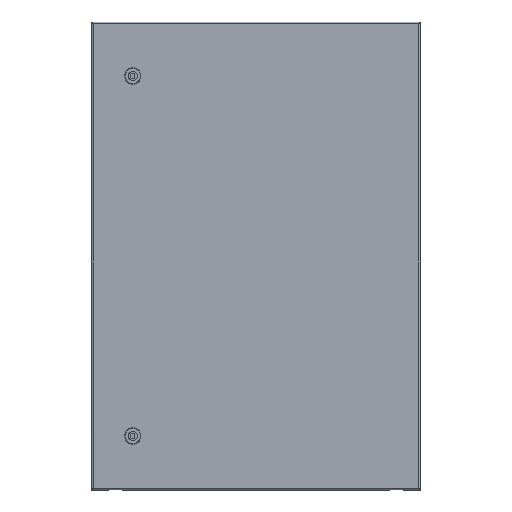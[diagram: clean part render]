
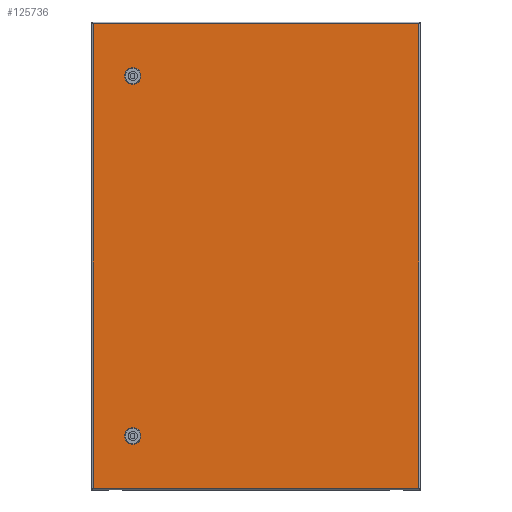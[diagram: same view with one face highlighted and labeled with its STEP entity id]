
A CAD part, top view. The second image highlights one B-rep face of the part: STEP entity #125736.
In plain terms, the highlighted planar face has unit normal (0, 0, 1).
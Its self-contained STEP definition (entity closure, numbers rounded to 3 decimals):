
#124846=CARTESIAN_POINT(' ',(2.8,0.8,0.));
#124851=DIRECTION(' ',(1.,0.,0.));
#124856=VECTOR(' ',#124851,1.);
#124861=LINE('',#124846,#124856);
#124866=CARTESIAN_POINT(' ',(2.8,0.8,0.));
#124867=VERTEX_POINT(' ',#124866);
#124871=CARTESIAN_POINT(' ',(591.2,0.8,0.));
#124872=VERTEX_POINT(' ',#124871);
#124876=EDGE_CURVE(' ',#124867,#124872,#124861,.T.);
#125596=DIRECTION(' ',(-0.,-0.,1.));
#125601=CARTESIAN_POINT(' ',(591.2,0.8,0.));
#125606=DIRECTION(' ',(0.,1.,0.));
#125611=AXIS2_PLACEMENT_3D(' ',#125601,#125596,#125606);
#125616=PLANE('NONE',#125611);
#125621=ORIENTED_EDGE(' ',*,*,#124876,.T.);
#125626=CARTESIAN_POINT(' ',(591.2,840.2,0.));
#125631=DIRECTION(' ',(0.,-1.,0.));
#125636=VECTOR(' ',#125631,1.);
#125641=LINE('',#125626,#125636);
#125646=CARTESIAN_POINT(' ',(591.2,840.2,0.));
#125647=VERTEX_POINT(' ',#125646);
#125651=EDGE_CURVE(' ',#125647,#124872,#125641,.T.);
#125656=ORIENTED_EDGE(' ',*,*,#125651,.F.);
#125661=CARTESIAN_POINT(' ',(591.2,840.2,0.));
#125666=DIRECTION(' ',(-1.,0.,0.));
#125671=VECTOR(' ',#125666,1.);
#125676=LINE('',#125661,#125671);
#125681=CARTESIAN_POINT(' ',(2.8,840.2,0.));
#125682=VERTEX_POINT(' ',#125681);
#125686=EDGE_CURVE(' ',#125647,#125682,#125676,.T.);
#125691=ORIENTED_EDGE(' ',*,*,#125686,.T.);
#125696=CARTESIAN_POINT(' ',(2.8,840.2,0.));
#125701=DIRECTION(' ',(0.,-1.,0.));
#125706=VECTOR(' ',#125701,1.);
#125711=LINE('',#125696,#125706);
#125716=EDGE_CURVE(' ',#125682,#124867,#125711,.T.);
#125721=ORIENTED_EDGE(' ',*,*,#125716,.T.);
#125726=EDGE_LOOP(' ',(#125621,#125656,#125691,#125721));
#125731=FACE_OUTER_BOUND(' ',#125726,.T.);
#125736=ADVANCED_FACE('NONE',(#125731),#125616,.T.);
